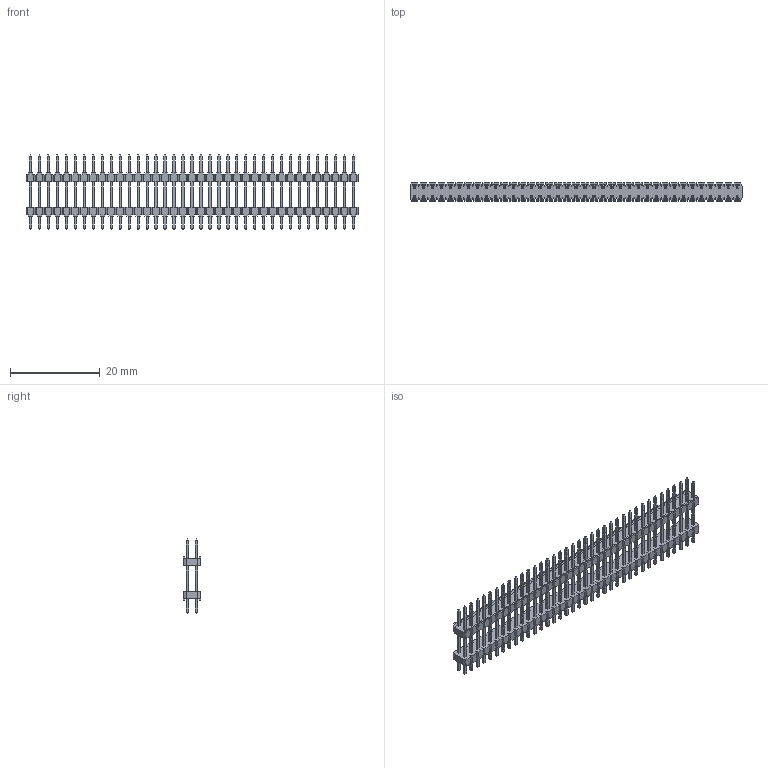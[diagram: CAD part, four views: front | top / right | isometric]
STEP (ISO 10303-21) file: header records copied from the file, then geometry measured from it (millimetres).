
FILE_DESCRIPTION(/* description */ (''),/* implementation_level */ '2;1');
FILE_NAME(/* name */ '951474-8011906-AR',/* time_stamp */ '2007-03-14T08:38:46+01:00',/* author */ (''),/* organization */ (''),/* preprocessor_version */ 'ST-DEVELOPER v9',/* originating_system */ 'UGS - NX 4.0',/* authorisation */ '');
FILE_SCHEMA (('AUTOMOTIVE_DESIGN { 1 0 10303 214 1 1 1 1 }'));
Products named in the file (1): 951474-8011906-AR
Bounding box: 74 x 4 x 16.5 mm (x, y, z)
Volume: 1172.4 mm3; surface area: 3884.9 mm2
Topology: 1 solids, 1 shells, 2672 faces, 6968 edges, 4448 vertices
Faces by surface type: plane 2376, cylinder 296
Entity records: 79968 total; most frequent: CARTESIAN_POINT 14089, ORIENTED_EDGE 13936, DIRECTION 12610, EDGE_CURVE 6968, LINE 6672, VECTOR 6672, VERTEX_POINT 4448, AXIS2_PLACEMENT_3D 2969
